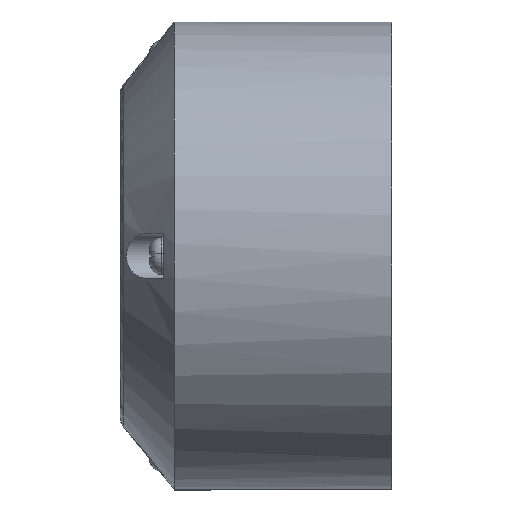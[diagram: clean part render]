
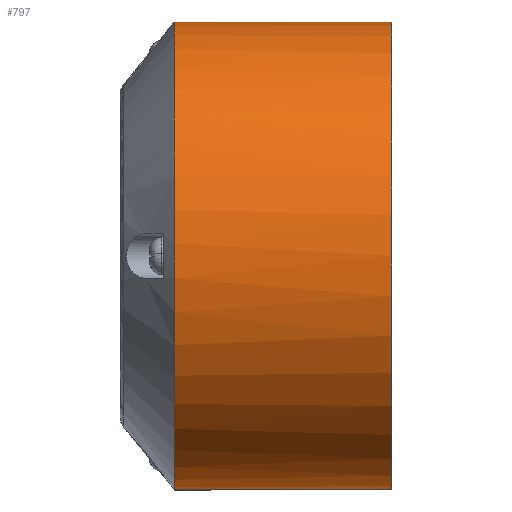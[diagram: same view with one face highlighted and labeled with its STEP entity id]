
A CAD part, left-side view. The second image highlights one B-rep face of the part: STEP entity #797.
In plain terms, the highlighted cylindrical face has radius 43 mm (diameter 86 mm), a partial arc.
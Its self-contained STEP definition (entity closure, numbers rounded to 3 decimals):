
#112 = CARTESIAN_POINT ( 'NONE',  ( 0., 40., 43. ) ) ;
#212 = CARTESIAN_POINT ( 'NONE',  ( 0., 40., -43. ) ) ;
#284 = CIRCLE ( 'NONE', #3656, 43. ) ;
#289 = CARTESIAN_POINT ( 'NONE',  ( -39.187, 40., 17.717 ) ) ;
#316 = CARTESIAN_POINT ( 'NONE',  ( -39.185, 40., -17.762 ) ) ;
#334 = CARTESIAN_POINT ( 'NONE',  ( 0., 40., 0. ) ) ;
#345 = CARTESIAN_POINT ( 'NONE',  ( -36.515, 40., -22.719 ) ) ;
#384 = CARTESIAN_POINT ( 'NONE',  ( -9.755, 40., -41.902 ) ) ;
#416 = CARTESIAN_POINT ( 'NONE',  ( -41.628, 40., 11.138 ) ) ;
#549 = LINE ( 'NONE', #3642, #4492 ) ;
#679 = ORIENTED_EDGE ( 'NONE', *, *, #6154, .F. ) ;
#722 = DIRECTION ( 'NONE',  ( 0., -1., 0. ) ) ;
#796 = CARTESIAN_POINT ( 'NONE',  ( -37.591, 40., -20.891 ) ) ;
#797 = ADVANCED_FACE ( 'NONE', ( #3162 ), #5136, .T. ) ;
#824 = CARTESIAN_POINT ( 'NONE',  ( -25.083, 40., 34.954 ) ) ;
#857 = CARTESIAN_POINT ( 'NONE',  ( -41.878, 40., -9.786 ) ) ;
#896 = CARTESIAN_POINT ( 'NONE',  ( -41.345, 40., -11.837 ) ) ;
#897 = ORIENTED_EDGE ( 'NONE', *, *, #2396, .T. ) ;
#1276 = CARTESIAN_POINT ( 'NONE',  ( -15.152, 40., -40.248 ) ) ;
#1317 = CARTESIAN_POINT ( 'NONE',  ( -42.933, 40., 2.779 ) ) ;
#1340 = LINE ( 'NONE', #3287, #2641 ) ;
#1389 = DIRECTION ( 'NONE',  ( 0., 1., 0. ) ) ;
#1413 = CARTESIAN_POINT ( 'NONE',  ( -32.389, 40., -28.422 ) ) ;
#1458 = CARTESIAN_POINT ( 'NONE',  ( 0., 0., 0. ) ) ;
#1513 = CARTESIAN_POINT ( 'NONE',  ( -7.06, 40., 42.44 ) ) ;
#1547 = CARTESIAN_POINT ( 'NONE',  ( -1.42, 40., 43. ) ) ;
#1768 = CARTESIAN_POINT ( 'NONE',  ( -37.264, 40., 21.503 ) ) ;
#1800 = CARTESIAN_POINT ( 'NONE',  ( -29.927, 40., 30.885 ) ) ;
#1840 = CARTESIAN_POINT ( 'NONE',  ( -28.372, 40., -32.343 ) ) ;
#2204 = DIRECTION ( 'NONE',  ( 0., -1., 0. ) ) ;
#2246 = CARTESIAN_POINT ( 'NONE',  ( -2.841, 40., -43. ) ) ;
#2275 = CARTESIAN_POINT ( 'NONE',  ( -40.817, 40., 13.818 ) ) ;
#2305 = CARTESIAN_POINT ( 'NONE',  ( -21.536, 40., -37.324 ) ) ;
#2342 = CARTESIAN_POINT ( 'NONE',  ( -27.835, 40., 32.782 ) ) ;
#2396 = EDGE_CURVE ( 'NONE', #4216, #4570, #284, .T. ) ;
#2537 = CARTESIAN_POINT ( 'NONE',  ( -13.871, 40., 40.799 ) ) ;
#2641 = VECTOR ( 'NONE', #3803, 1000. ) ;
#2686 = DIRECTION ( 'NONE',  ( 0., 0., -1. ) ) ;
#2727 = CARTESIAN_POINT ( 'NONE',  ( -42.727, 40., 4.893 ) ) ;
#2759 = CARTESIAN_POINT ( 'NONE',  ( -42.998, 40., -2.833 ) ) ;
#2786 = CARTESIAN_POINT ( 'NONE',  ( -26.208, 40., 34.119 ) ) ;
#2818 = CARTESIAN_POINT ( 'NONE',  ( -38.582, 40., 18.999 ) ) ;
#2856 = CARTESIAN_POINT ( 'NONE',  ( -41.533, 40., -11.158 ) ) ;
#3066 = CARTESIAN_POINT ( 'NONE',  ( 0., 0., -43. ) ) ;
#3162 = FACE_OUTER_BOUND ( 'NONE', #4074, .T. ) ;
#3169 = CARTESIAN_POINT ( 'NONE',  ( 0., 0., 43. ) ) ;
#3229 = CARTESIAN_POINT ( 'NONE',  ( -26.168, 40., -34.128 ) ) ;
#3264 = CARTESIAN_POINT ( 'NONE',  ( -29.413, 40., 31.375 ) ) ;
#3287 = CARTESIAN_POINT ( 'NONE',  ( 0., 40., 43. ) ) ;
#3294 = CARTESIAN_POINT ( 'NONE',  ( -19.066, 40., -38.645 ) ) ;
#3323 = CARTESIAN_POINT ( 'NONE',  ( -5.634, 40., -42.721 ) ) ;
#3361 = CARTESIAN_POINT ( 'NONE',  ( -36.134, 40., -23.32 ) ) ;
#3372 = DIRECTION ( 'NONE',  ( 0., 0., 1. ) ) ;
#3419 = EDGE_CURVE ( 'NONE', #3781, #4216, #549, .T. ) ;
#3642 = CARTESIAN_POINT ( 'NONE',  ( 0., 40., -43. ) ) ;
#3656 = AXIS2_PLACEMENT_3D ( 'NONE', #1458, #1389, #3372 ) ;
#3710 = CARTESIAN_POINT ( 'NONE',  ( -34.209, 40., 26.203 ) ) ;
#3745 = CARTESIAN_POINT ( 'NONE',  ( -34.169, 40., -26.257 ) ) ;
#3780 = CARTESIAN_POINT ( 'NONE',  ( -42.64, 40., 5.599 ) ) ;
#3781 = VERTEX_POINT ( 'NONE', #212 ) ;
#3803 = DIRECTION ( 'NONE',  ( 0., -1., 0. ) ) ;
#3810 = CARTESIAN_POINT ( 'NONE',  ( -13.817, 40., -40.726 ) ) ;
#3838 = CARTESIAN_POINT ( 'NONE',  ( -40.731, 40., -13.856 ) ) ;
#3939 = CARTESIAN_POINT ( 'NONE',  ( -2.837, 40., 42.93 ) ) ;
#3978 = CARTESIAN_POINT ( 'NONE',  ( -11.191, 40., 41.613 ) ) ;
#4074 = EDGE_LOOP ( 'NONE', ( #897, #679, #4336, #4920 ) ) ;
#4190 = VERTEX_POINT ( 'NONE', #112 ) ;
#4198 = CARTESIAN_POINT ( 'NONE',  ( -38.262, 40., 19.634 ) ) ;
#4216 = VERTEX_POINT ( 'NONE', #3066 ) ;
#4226 = CARTESIAN_POINT ( 'NONE',  ( -36.542, 40., 22.708 ) ) ;
#4263 = CARTESIAN_POINT ( 'NONE',  ( -25.033, 40., -34.969 ) ) ;
#4301 = CARTESIAN_POINT ( 'NONE',  ( -39.472, 40., 17.072 ) ) ;
#4320 = B_SPLINE_CURVE_WITH_KNOTS ( 'NONE', 3,
 ( #4789, #2246, #3323, #384, #5827, #6179, #3810, #1276, #4327, #3294, #2305, #6311, #4263, #3229, #5733, #1840, #5309, #1413, #3745, #3361, #345, #5211, #796, #4721, #316, #5277, #3838, #896, #2856, #857, #6279, #4826, #2759, #5345, #1317, #2727, #3780, #4688, #6247, #416, #2275, #4301, #289, #2818, #4198, #1768, #4226, #3710, #6208, #1800, #3264, #5248, #2342, #2786, #824, #4751, #5762, #4886, #5927, #2537, #3978, #1513, #5961, #3939, #1547, #4980 ),
 .UNSPECIFIED., .F., .F.,
 ( 4, 2, 2, 2, 2, 2, 2, 2, 2, 2, 2, 2, 2, 2, 2, 2, 2, 2, 2, 2, 2, 2, 2, 2, 2, 2, 2, 2, 2, 2, 2, 2, 4 ),
 ( 0., 0.008, 0.013, 0.015, 0.017, 0.025, 0.027, 0.029, 0.034, 0.042, 0.044, 0.046, 0.05, 0.055, 0.057, 0.059, 0.067, 0.071, 0.074, 0.076, 0.084, 0.086, 0.088, 0.092, 0.101, 0.103, 0.105, 0.109, 0.113, 0.118, 0.126, 0.13, 0.134 ),
 .UNSPECIFIED. ) ;
#4327 = CARTESIAN_POINT ( 'NONE',  ( -15.812, 40., -39.994 ) ) ;
#4336 = ORIENTED_EDGE ( 'NONE', *, *, #4735, .F. ) ;
#4492 = VECTOR ( 'NONE', #2204, 1000. ) ;
#4570 = VERTEX_POINT ( 'NONE', #3169 ) ;
#4688 = CARTESIAN_POINT ( 'NONE',  ( -42.433, 40., 6.997 ) ) ;
#4721 = CARTESIAN_POINT ( 'NONE',  ( -38.586, 40., -19.029 ) ) ;
#4735 = EDGE_CURVE ( 'NONE', #3781, #4190, #4320, .T. ) ;
#4751 = CARTESIAN_POINT ( 'NONE',  ( -22.756, 40., 36.512 ) ) ;
#4789 = CARTESIAN_POINT ( 'NONE',  ( 0., 40., -43. ) ) ;
#4826 = CARTESIAN_POINT ( 'NONE',  ( -42.725, 40., -5.623 ) ) ;
#4886 = CARTESIAN_POINT ( 'NONE',  ( -19.067, 40., 38.567 ) ) ;
#4920 = ORIENTED_EDGE ( 'NONE', *, *, #3419, .T. ) ;
#4980 = CARTESIAN_POINT ( 'NONE',  ( 0., 40., 43. ) ) ;
#5136 = CYLINDRICAL_SURFACE ( 'NONE', #5712, 43. ) ;
#5211 = CARTESIAN_POINT ( 'NONE',  ( -37.243, 40., -21.505 ) ) ;
#5248 = CARTESIAN_POINT ( 'NONE',  ( -28.368, 40., 32.323 ) ) ;
#5277 = CARTESIAN_POINT ( 'NONE',  ( -40.258, 40., -15.175 ) ) ;
#5309 = CARTESIAN_POINT ( 'NONE',  ( -29.414, 40., -31.397 ) ) ;
#5345 = CARTESIAN_POINT ( 'NONE',  ( -43.001, 40., 1.373 ) ) ;
#5712 = AXIS2_PLACEMENT_3D ( 'NONE', #334, #722, #2686 ) ;
#5733 = CARTESIAN_POINT ( 'NONE',  ( -26.728, 40., -33.692 ) ) ;
#5762 = CARTESIAN_POINT ( 'NONE',  ( -21.553, 40., 37.235 ) ) ;
#5827 = CARTESIAN_POINT ( 'NONE',  ( -11.117, 40., -41.562 ) ) ;
#5927 = CARTESIAN_POINT ( 'NONE',  ( -17.778, 40., 39.178 ) ) ;
#5961 = CARTESIAN_POINT ( 'NONE',  ( -5.663, 40., 42.649 ) ) ;
#6154 = EDGE_CURVE ( 'NONE', #4190, #4570, #1340, .T. ) ;
#6179 = CARTESIAN_POINT ( 'NONE',  ( -13.143, 40., -40.948 ) ) ;
#6208 = CARTESIAN_POINT ( 'NONE',  ( -32.433, 40., 28.375 ) ) ;
#6247 = CARTESIAN_POINT ( 'NONE',  ( -42.312, 40., 7.691 ) ) ;
#6279 = CARTESIAN_POINT ( 'NONE',  ( -42.034, 40., -9.091 ) ) ;
#6311 = CARTESIAN_POINT ( 'NONE',  ( -24.457, 40., -35.374 ) ) ;
